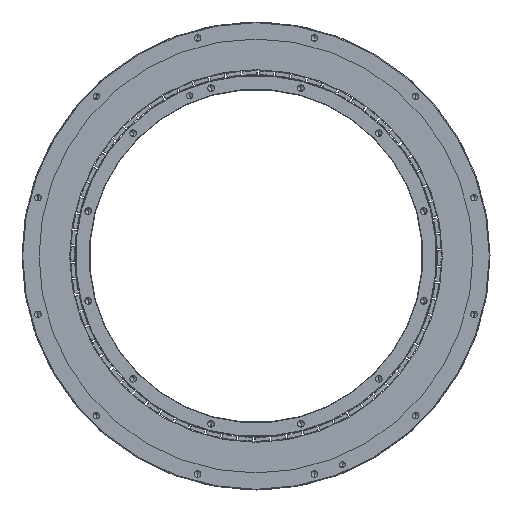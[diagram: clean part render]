
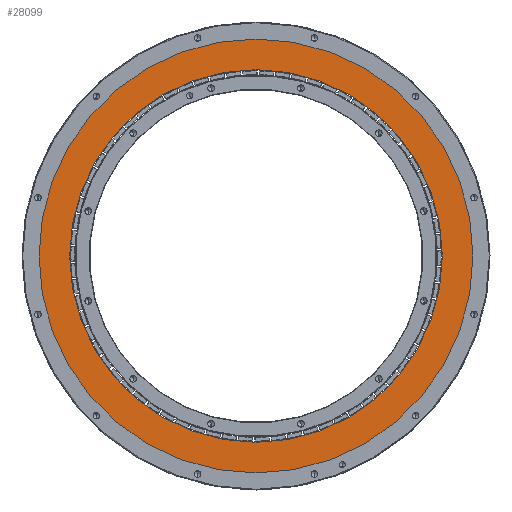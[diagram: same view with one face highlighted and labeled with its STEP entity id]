
A CAD part, front view. The second image highlights one B-rep face of the part: STEP entity #28099.
In plain terms, the highlighted planar face has unit normal (0, -1, 0).
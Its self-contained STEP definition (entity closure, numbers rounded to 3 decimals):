
#2252 = CARTESIAN_POINT ( 'NONE',  ( 0., -64., 224.905 ) ) ;
#2360 = AXIS2_PLACEMENT_3D ( 'NONE', #24916, #27712, #3142 ) ;
#3142 = DIRECTION ( 'NONE',  ( 0., 0., -1. ) ) ;
#4084 = DIRECTION ( 'NONE',  ( 0., -1., 0. ) ) ;
#4150 = CARTESIAN_POINT ( 'NONE',  ( 0., -64., -193.1 ) ) ;
#5338 = ORIENTED_EDGE ( 'NONE', *, *, #11094, .T. ) ;
#7278 = DIRECTION ( 'NONE',  ( 0., -1., 0. ) ) ;
#7456 = CARTESIAN_POINT ( 'NONE',  ( 0., -64., 0. ) ) ;
#8555 = ORIENTED_EDGE ( 'NONE', *, *, #32374, .F. ) ;
#8802 = CARTESIAN_POINT ( 'NONE',  ( 0., -64., 193.1 ) ) ;
#10562 = PLANE ( 'NONE',  #23577 ) ;
#11063 = CARTESIAN_POINT ( 'NONE',  ( 0., -64., 0. ) ) ;
#11094 = EDGE_CURVE ( 'NONE', #11527, #15665, #20461, .T. ) ;
#11121 = AXIS2_PLACEMENT_3D ( 'NONE', #11063, #11239, #18840 ) ;
#11239 = DIRECTION ( 'NONE',  ( 0., -1., 0. ) ) ;
#11527 = VERTEX_POINT ( 'NONE', #2252 ) ;
#12246 = DIRECTION ( 'NONE',  ( 0., 0., -1. ) ) ;
#13123 = CIRCLE ( 'NONE', #2360, 193.1 ) ;
#13237 = FACE_BOUND ( 'NONE', #20097, .T. ) ;
#13399 = DIRECTION ( 'NONE',  ( 0., 0., -1. ) ) ;
#14651 = ORIENTED_EDGE ( 'NONE', *, *, #28922, .T. ) ;
#15601 = CARTESIAN_POINT ( 'NONE',  ( 0., -64., -224.905 ) ) ;
#15665 = VERTEX_POINT ( 'NONE', #15601 ) ;
#15805 = DIRECTION ( 'NONE',  ( 0., 0., -1. ) ) ;
#16072 = DIRECTION ( 'NONE',  ( 0., -1., 0. ) ) ;
#16843 = CARTESIAN_POINT ( 'NONE',  ( 0., -64., 0. ) ) ;
#18109 = EDGE_LOOP ( 'NONE', ( #14651, #5338 ) ) ;
#18503 = CIRCLE ( 'NONE', #29809, 193.1 ) ;
#18840 = DIRECTION ( 'NONE',  ( 0., 0., -1. ) ) ;
#19285 = AXIS2_PLACEMENT_3D ( 'NONE', #7456, #7278, #15805 ) ;
#20097 = EDGE_LOOP ( 'NONE', ( #20514, #8555 ) ) ;
#20461 = CIRCLE ( 'NONE', #19285, 224.905 ) ;
#20514 = ORIENTED_EDGE ( 'NONE', *, *, #29354, .F. ) ;
#23577 = AXIS2_PLACEMENT_3D ( 'NONE', #29464, #16072, #13399 ) ;
#24916 = CARTESIAN_POINT ( 'NONE',  ( 0., -64., 0. ) ) ;
#26399 = CIRCLE ( 'NONE', #11121, 224.905 ) ;
#27712 = DIRECTION ( 'NONE',  ( 0., -1., 0. ) ) ;
#28099 = ADVANCED_FACE ( 'NONE', ( #13237, #34832 ), #10562, .T. ) ;
#28922 = EDGE_CURVE ( 'NONE', #15665, #11527, #26399, .T. ) ;
#29354 = EDGE_CURVE ( 'NONE', #33656, #34145, #18503, .T. ) ;
#29464 = CARTESIAN_POINT ( 'NONE',  ( 0., -64., 0. ) ) ;
#29809 = AXIS2_PLACEMENT_3D ( 'NONE', #16843, #4084, #12246 ) ;
#32374 = EDGE_CURVE ( 'NONE', #34145, #33656, #13123, .T. ) ;
#33656 = VERTEX_POINT ( 'NONE', #4150 ) ;
#34145 = VERTEX_POINT ( 'NONE', #8802 ) ;
#34832 = FACE_OUTER_BOUND ( 'NONE', #18109, .T. ) ;
